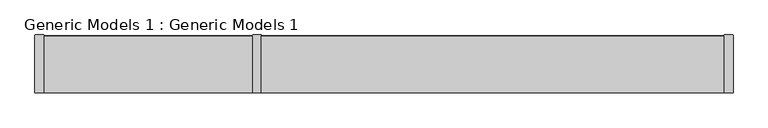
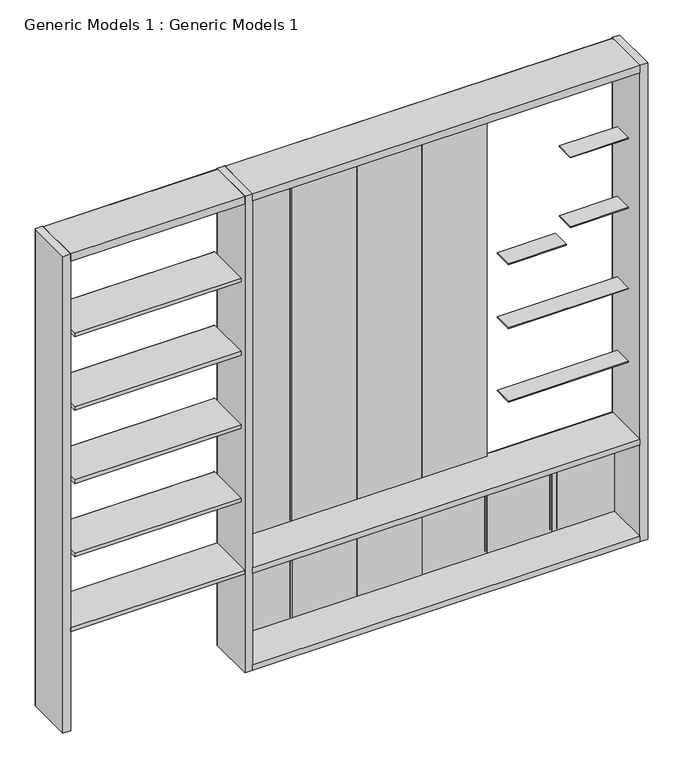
"""IFC4 building model written with IfcOpenShell, lengths in millimetres: proxy geometry, Generic Models 1 : Generic Models 1."""

import ifcopenshell
import ifcopenshell.guid

model = None  # the IFC model being written
_history = None  # IfcOwnerHistory: only IFC2X3 demands one
_inside = {}  # id of a spatial element -> (the spatial element, [elements in it])
_under = {}  # id of a project, library or spatial element -> (it, [spatial elements below it])
_declared = {}  # id of a project -> (the project, [libraries it declares])
_typed = {}  # id of a type object -> (the type object, [elements of that type])
_made_of = {}  # id of a material, layer set ... -> (it, [elements and type objects made of it])


def new_model(schema):
    """Start an empty IFC model of exactly this schema.

    Asked for "IFC4X3", IfcOpenShell would pick the latest addendum, in which some entities
    have other attributes; the version numbers below select the first issue.
    IFC2X3 requires an IfcOwnerHistory on every rooted entity: one is made here for all.
    """
    global model, _history
    if schema == "IFC4X3":
        model = ifcopenshell.file(schema_version=(4, 3, 0, 0))
    else:
        model = ifcopenshell.file(schema=schema)
    _inside.clear()
    _under.clear()
    _declared.clear()
    _typed.clear()
    _made_of.clear()
    _history = None
    if model.schema == "IFC2X3":
        org = make("IfcOrganization", Name="unknown")
        user = make(
            "IfcPersonAndOrganization",
            ThePerson=make("IfcPerson", FamilyName="unknown"),
            TheOrganization=org,
        )
        app = make(
            "IfcApplication",
            ApplicationDeveloper=org,
            Version="unknown",
            ApplicationFullName="unknown",
            ApplicationIdentifier="unknown",
        )
        _history = make(
            "IfcOwnerHistory",
            OwningUser=user,
            OwningApplication=app,
            ChangeAction="ADDED",
            CreationDate=0,
        )
    return model


def make(cls, **values):
    """One entity of the class cls with the attributes given. An attribute that is None is left unset."""
    return model.create_entity(
        cls, **{name: value for name, value in values.items() if value is not None}
    )


def rooted(cls, **values):
    """An entity with a GlobalId (a new one), such as an element, a storey or a relation."""
    return make(cls, GlobalId=ifcopenshell.guid.new(), OwnerHistory=_history, **values)


def si_unit(unit_type, name, prefix=None):
    """IfcSIUnit, for example si_unit("LENGTHUNIT", "METRE", prefix="MILLI")."""
    return make("IfcSIUnit", UnitType=unit_type, Prefix=prefix, Name=name)


def assignment(units):
    """IfcUnitAssignment: the units of a project."""
    return None if units is None else make("IfcUnitAssignment", Units=units)


def point(xyz):
    """IfcCartesianPoint."""
    return None if xyz is None else make("IfcCartesianPoint", Coordinates=xyz)


def direction(xyz):
    """IfcDirection."""
    return None if xyz is None else make("IfcDirection", DirectionRatios=xyz)


def frame(location, z_axis=None, x_axis=None):
    """IfcAxis2Placement3D, a coordinate frame: its origin and axes. An axis left out is left unset."""
    return make(
        "IfcAxis2Placement3D",
        Location=point(location),
        Axis=direction(z_axis),
        RefDirection=direction(x_axis),
    )


def frame_2d(location, x_axis=None):
    """IfcAxis2Placement2D, a coordinate frame in the plane: its origin and x axis."""
    return make(
        "IfcAxis2Placement2D", Location=point(location), RefDirection=direction(x_axis)
    )


def origin():
    """The frame at (0, 0, 0) with its axes left unset."""
    return frame((0.0, 0.0, 0.0))


def origin_with_axes():
    """The frame at (0, 0, 0) with the z axis (0, 0, 1) and the x axis (1, 0, 0) written out."""
    return frame((0.0, 0.0, 0.0), z_axis=(0.0, 0.0, 1.0), x_axis=(1.0, 0.0, 0.0))


def place(relative_to, where):
    """IfcLocalPlacement: puts the frame where relative to a parent placement (None: the world)."""
    return make(
        "IfcLocalPlacement", PlacementRelTo=relative_to, RelativePlacement=where
    )


def context(
    kind, dimensions, precision=None, world=None, true_north=None, identifier=None
):
    """IfcGeometricRepresentationContext, for example the 3D "Model" context."""
    return make(
        "IfcGeometricRepresentationContext",
        ContextIdentifier=identifier,
        ContextType=kind,
        CoordinateSpaceDimension=dimensions,
        Precision=precision,
        WorldCoordinateSystem=world,
        TrueNorth=true_north,
    )


def project(units=None, contexts=None):
    """IfcProject with its units and contexts."""
    return rooted(
        "IfcProject",
        Name="project",
        RepresentationContexts=contexts,
        UnitsInContext=assignment(units),
    )


def spatial(cls, under=None, at=None, **own):
    """A site, building, storey or space (cls), placed at a placement, below another one or the project."""
    s = rooted(cls, ObjectPlacement=at, **own)
    if under is not None:
        _under.setdefault(under.id(), (under, []))[1].append(s)
    return s


def polyline(points):
    """IfcPolyline through the points."""
    return make("IfcPolyline", Points=[point(p) for p in points])


def circle_curve(where, radius):
    """IfcCircle in the frame where."""
    return make("IfcCircle", Position=where, Radius=radius)


def trimmed(basis, trim1, trim2, sense, master):
    """IfcTrimmedCurve: the piece of a basis curve between two trims."""
    return make(
        "IfcTrimmedCurve",
        BasisCurve=basis,
        Trim1=trim1,
        Trim2=trim2,
        SenseAgreement=sense,
        MasterRepresentation=master,
    )


def segment(curve, same_sense, transition):
    """IfcCompositeCurveSegment."""
    return make(
        "IfcCompositeCurveSegment",
        Transition=transition,
        SameSense=same_sense,
        ParentCurve=curve,
    )


def composite_curve(segments, self_intersect=None):
    """IfcCompositeCurve: segments joined end to end."""
    return make("IfcCompositeCurve", Segments=segments, SelfIntersect=self_intersect)


def outline(outer, holes=None, kind="AREA"):
    """IfcArbitraryClosedProfileDef: a profile drawn as a closed curve; with holes, ...WithVoids."""
    if holes is None:
        return make("IfcArbitraryClosedProfileDef", ProfileType=kind, OuterCurve=outer)
    return make(
        "IfcArbitraryProfileDefWithVoids",
        ProfileType=kind,
        OuterCurve=outer,
        InnerCurves=holes,
    )


def extrude(swept, where, along, depth):
    """IfcExtrudedAreaSolid: the profile swept, set in the frame where, extruded along a direction by depth."""
    return make(
        "IfcExtrudedAreaSolid",
        SweptArea=swept,
        Position=where,
        ExtrudedDirection=direction(along),
        Depth=depth,
    )


def shape(context_of_items, identifier, shape_type, items):
    """IfcShapeRepresentation: the items that make up one representation, for example the "Body"."""
    return make(
        "IfcShapeRepresentation",
        ContextOfItems=context_of_items,
        RepresentationIdentifier=identifier,
        RepresentationType=shape_type,
        Items=items,
    )


def source(mapping_origin, context_of_items, identifier, shape_type, items):
    """IfcRepresentationMap: a shape defined once, which mapped items show again and again."""
    return make(
        "IfcRepresentationMap",
        MappingOrigin=mapping_origin,
        MappedRepresentation=shape(context_of_items, identifier, shape_type, items),
    )


def transform(
    local_origin,
    x_axis=None,
    y_axis=None,
    z_axis=None,
    scale=None,
    scale2=None,
    scale3=None,
    uniform=True,
):
    """IfcCartesianTransformationOperator3D, or its non-uniform kind. x_axis, y_axis, z_axis: its Axis1, 2, 3."""
    if uniform:
        return make(
            "IfcCartesianTransformationOperator3D",
            Axis1=direction(x_axis),
            Axis2=direction(y_axis),
            LocalOrigin=point(local_origin),
            Scale=scale,
            Axis3=direction(z_axis),
        )
    return make(
        "IfcCartesianTransformationOperator3DnonUniform",
        Axis1=direction(x_axis),
        Axis2=direction(y_axis),
        LocalOrigin=point(local_origin),
        Scale=scale,
        Axis3=direction(z_axis),
        Scale2=scale2,
        Scale3=scale3,
    )


def mapped(mapping_source, mapping_target):
    """IfcMappedItem: shows the shape of a source again, moved by a transform."""
    return make(
        "IfcMappedItem", MappingSource=mapping_source, MappingTarget=mapping_target
    )


def made_of(thing, what):
    """Note that an element or type object is made of a material, layer set ...; save() writes the relation."""
    if what is not None:
        _made_of.setdefault(what.id(), (what, []))[1].append(thing)
    return thing


def element(
    cls,
    number,
    at=None,
    inside=None,
    cuts=None,
    type_object=None,
    material=None,
    context=None,
    identifier="Body",
    shape_type=None,
    held_by="IfcProductDefinitionShape",
    body=None,
    shapes=None,
    **own,
):
    """One element of the class cls, such as IfcWall. Its Tag is "e" and its number.

    at: its placement. inside: the storey or other place that contains it. cuts: it is an
    opening in that element (IfcRelVoidsElement). A single representation is given by context,
    identifier, shape_type and body (its items); several are given by shapes. held_by: the class
    of the entity that holds the representations. save() writes the other relations.
    """
    e = rooted(cls, Tag="e%d" % number, ObjectPlacement=at, **own)
    if body is not None:
        shapes = [shape(context, identifier, shape_type, body)]
    if shapes is not None:
        e.Representation = make(held_by, Representations=shapes)
    if inside is not None:
        _inside.setdefault(inside.id(), (inside, []))[1].append(e)
    if cuts is not None:
        rooted(
            "IfcRelVoidsElement", RelatingBuildingElement=cuts, RelatedOpeningElement=e
        )
    if type_object is not None:
        _typed.setdefault(type_object.id(), (type_object, []))[1].append(e)
    return made_of(e, material)


def aggregate(whole, parts):
    """IfcRelAggregates: a whole, such as a stair, and the parts it consists of."""
    return rooted("IfcRelAggregates", RelatingObject=whole, RelatedObjects=parts)


def save(model, path):
    """Write the relations noted so far, then the file.

    IfcRelAggregates (storeys below a building ...), IfcRelContainedInSpatialStructure (elements
    in a storey), IfcRelDefinesByType, IfcRelAssociatesMaterial and IfcRelDeclares: one each for
    every whole, place, type object, material and project.
    """
    for whole, parts in _under.values():
        aggregate(whole, parts)
    for where, things in _inside.values():
        rooted(
            "IfcRelContainedInSpatialStructure",
            RelatedElements=things,
            RelatingStructure=where,
        )
    for kind, things in _typed.values():
        rooted("IfcRelDefinesByType", RelatedObjects=things, RelatingType=kind)
    for what, things in _made_of.values():
        rooted("IfcRelAssociatesMaterial", RelatedObjects=things, RelatingMaterial=what)
    for by, libraries in _declared.values():
        rooted("IfcRelDeclares", RelatingContext=by, RelatedDefinitions=libraries)
    model.write(path)


def generic_models_1_generic_models_1_61025e43(model_context):
    return source(origin(), model_context, "Body", "SweptSolid", [
        extrude(outline(composite_curve([segment(polyline([(-1056.8344055, -2473.7040827), (-1391.2531836, -2473.7040827), (-1391.2531836, -2455.7040827)]), True, "CONTINUOUS"), segment(trimmed(circle_curve(frame_2d((-1389.2531836, -2455.7040827)), 2.0), [point((-1391.2531836, -2455.7040827))], [point((-1389.2531836, -2453.7040827))], False, "CARTESIAN"), True, "CONTINUOUS"), segment(polyline([(-1389.2531836, -2453.7040827), (-1090.8732838, -2453.7040827), (-1090.8732838, -2456.1682395)]), True, "CONTINUOUS"), segment(trimmed(circle_curve(frame_2d((-1079.7436907, -2456.1682395)), 11.1295931), [point((-1090.8732838, -2456.1682395))], [point((-1079.7436907, -2467.2978327))], True, "CARTESIAN"), True, "CONTINUOUS"), segment(polyline([(-1079.7436907, -2467.2978327), (-1066.8107838, -2467.2978327)]), True, "CONTINUOUS"), segment(trimmed(circle_curve(frame_2d((-1066.8107838, -2463.0009577)), 4.296875), [point((-1066.8107838, -2467.2978327))], [point((-1066.8107838, -2458.7040827))], True, "CARTESIAN"), True, "CONTINUOUS"), segment(polyline([(-1066.8107838, -2458.7040827), (-1074.186309, -2458.7040827)]), True, "CONTINUOUS"), segment(trimmed(circle_curve(frame_2d((-1074.186309, -2455.0559861)), 3.6480965), [point((-1074.186309, -2458.7040827))], [point((-1077.8344055, -2455.0559861))], False, "CARTESIAN"), True, "CONTINUOUS"), segment(polyline([(-1077.8344055, -2455.0559861), (-1077.8344055, -2453.7040827), (-1058.8344055, -2453.7040827)]), True, "CONTINUOUS"), segment(trimmed(circle_curve(frame_2d((-1058.8344055, -2455.7040827)), 2.0), [point((-1058.8344055, -2453.7040827))], [point((-1056.8344055, -2455.7040827))], False, "CARTESIAN"), True, "CONTINUOUS"), segment(polyline([(-1056.8344055, -2455.7040827), (-1056.8344055, -2473.7040827)]), True, "CONTINUOUS")], self_intersect=False)), frame((0.0, 0.0, 30.0), z_axis=(0.0, 0.0, 1.0), x_axis=(1.0, 0.0, 0.0)), (0.0, 0.0, 1.0), 500.0),
        extrude(outline(composite_curve([segment(polyline([(-1726.8344055, -2473.7040827), (-2061.2531836, -2473.7040827), (-2061.2531836, -2455.7040827)]), True, "CONTINUOUS"), segment(trimmed(circle_curve(frame_2d((-2059.2531836, -2455.7040827)), 2.0), [point((-2061.2531836, -2455.7040827))], [point((-2059.2531836, -2453.7040827))], False, "CARTESIAN"), True, "CONTINUOUS"), segment(polyline([(-2059.2531836, -2453.7040827), (-1760.8732838, -2453.7040827), (-1760.8732838, -2456.1682395)]), True, "CONTINUOUS"), segment(trimmed(circle_curve(frame_2d((-1749.7436907, -2456.1682395)), 11.1295931), [point((-1760.8732838, -2456.1682395))], [point((-1749.7436907, -2467.2978327))], True, "CARTESIAN"), True, "CONTINUOUS"), segment(polyline([(-1749.7436907, -2467.2978327), (-1736.8107838, -2467.2978327)]), True, "CONTINUOUS"), segment(trimmed(circle_curve(frame_2d((-1736.8107838, -2463.0009577)), 4.296875), [point((-1736.8107838, -2467.2978327))], [point((-1736.8107838, -2458.7040827))], True, "CARTESIAN"), True, "CONTINUOUS"), segment(polyline([(-1736.8107838, -2458.7040827), (-1744.186309, -2458.7040827)]), True, "CONTINUOUS"), segment(trimmed(circle_curve(frame_2d((-1744.186309, -2455.0559861)), 3.6480965), [point((-1744.186309, -2458.7040827))], [point((-1747.8344055, -2455.0559861))], False, "CARTESIAN"), True, "CONTINUOUS"), segment(polyline([(-1747.8344055, -2455.0559861), (-1747.8344055, -2453.7040827), (-1728.8344055, -2453.7040827)]), True, "CONTINUOUS"), segment(trimmed(circle_curve(frame_2d((-1728.8344055, -2455.7040827)), 2.0), [point((-1728.8344055, -2453.7040827))], [point((-1726.8344055, -2455.7040827))], False, "CARTESIAN"), True, "CONTINUOUS"), segment(polyline([(-1726.8344055, -2455.7040827), (-1726.8344055, -2473.7040827)]), True, "CONTINUOUS")], self_intersect=False)), frame((0.0, 0.0, 30.0), z_axis=(0.0, 0.0, 1.0), x_axis=(1.0, 0.0, 0.0)), (0.0, 0.0, 1.0), 500.0),
        extrude(outline(composite_curve([segment(polyline([(-1056.0719618, -2473.7040827), (-1056.0719618, -2455.7040827)]), True, "CONTINUOUS"), segment(trimmed(circle_curve(frame_2d((-1054.0719618, -2455.7040827)), 2.0), [point((-1056.0719618, -2455.7040827))], [point((-1054.0719618, -2453.7040827))], False, "CARTESIAN"), True, "CONTINUOUS"), segment(polyline([(-1054.0719618, -2453.7040827), (-1035.0719618, -2453.7040827), (-1035.0719618, -2455.0559861)]), True, "CONTINUOUS"), segment(trimmed(circle_curve(frame_2d((-1038.7200583, -2455.0559861)), 3.6480965), [point((-1035.0719618, -2455.0559861))], [point((-1038.7200583, -2458.7040827))], False, "CARTESIAN"), True, "CONTINUOUS"), segment(polyline([(-1038.7200583, -2458.7040827), (-1046.0955835, -2458.7040827)]), True, "CONTINUOUS"), segment(trimmed(circle_curve(frame_2d((-1046.0955835, -2463.0009577)), 4.296875), [point((-1046.0955835, -2458.7040827))], [point((-1046.0955835, -2467.2978327))], True, "CARTESIAN"), True, "CONTINUOUS"), segment(polyline([(-1046.0955835, -2467.2978327), (-1033.1626766, -2467.2978327)]), True, "CONTINUOUS"), segment(trimmed(circle_curve(frame_2d((-1033.1626766, -2456.1682395)), 11.1295931), [point((-1033.1626766, -2467.2978327))], [point((-1022.0330835, -2456.1682395))], True, "CARTESIAN"), True, "CONTINUOUS"), segment(polyline([(-1022.0330835, -2456.1682395), (-1022.0330835, -2453.7040827), (-723.6531836, -2453.7040827)]), True, "CONTINUOUS"), segment(trimmed(circle_curve(frame_2d((-723.6531836, -2455.7040827)), 2.0), [point((-723.6531836, -2453.7040827))], [point((-721.6531836, -2455.7040827))], False, "CARTESIAN"), True, "CONTINUOUS"), segment(polyline([(-721.6531836, -2455.7040827), (-721.6531836, -2473.7040827), (-1056.0719618, -2473.7040827)]), True, "CONTINUOUS")], self_intersect=False)), frame((0.0, 0.0, 30.0), z_axis=(0.0, 0.0, 1.0), x_axis=(1.0, 0.0, 0.0)), (0.0, 0.0, 1.0), 500.0),
        extrude(outline(composite_curve([segment(polyline([(-1726.0719618, -2473.7040827), (-1726.0719618, -2455.7040827)]), True, "CONTINUOUS"), segment(trimmed(circle_curve(frame_2d((-1724.0719618, -2455.7040827)), 2.0), [point((-1726.0719618, -2455.7040827))], [point((-1724.0719618, -2453.7040827))], False, "CARTESIAN"), True, "CONTINUOUS"), segment(polyline([(-1724.0719618, -2453.7040827), (-1705.0719618, -2453.7040827), (-1705.0719618, -2455.0559861)]), True, "CONTINUOUS"), segment(trimmed(circle_curve(frame_2d((-1708.7200583, -2455.0559861)), 3.6480965), [point((-1705.0719618, -2455.0559861))], [point((-1708.7200583, -2458.7040827))], False, "CARTESIAN"), True, "CONTINUOUS"), segment(polyline([(-1708.7200583, -2458.7040827), (-1716.0955835, -2458.7040827)]), True, "CONTINUOUS"), segment(trimmed(circle_curve(frame_2d((-1716.0955835, -2463.0009577)), 4.296875), [point((-1716.0955835, -2458.7040827))], [point((-1716.0955835, -2467.2978327))], True, "CARTESIAN"), True, "CONTINUOUS"), segment(polyline([(-1716.0955835, -2467.2978327), (-1703.1626766, -2467.2978327)]), True, "CONTINUOUS"), segment(trimmed(circle_curve(frame_2d((-1703.1626766, -2456.1682395)), 11.1295931), [point((-1703.1626766, -2467.2978327))], [point((-1692.0330835, -2456.1682395))], True, "CARTESIAN"), True, "CONTINUOUS"), segment(polyline([(-1692.0330835, -2456.1682395), (-1692.0330835, -2453.7040827), (-1393.6531836, -2453.7040827)]), True, "CONTINUOUS"), segment(trimmed(circle_curve(frame_2d((-1393.6531836, -2455.7040827)), 2.0), [point((-1393.6531836, -2453.7040827))], [point((-1391.6531836, -2455.7040827))], False, "CARTESIAN"), True, "CONTINUOUS"), segment(polyline([(-1391.6531836, -2455.7040827), (-1391.6531836, -2473.7040827), (-1726.0719618, -2473.7040827)]), True, "CONTINUOUS")], self_intersect=False)), frame((0.0, 0.0, 30.0), z_axis=(0.0, 0.0, 1.0), x_axis=(1.0, 0.0, 0.0)), (0.0, 0.0, 1.0), 500.0),
        extrude(outline(composite_curve([segment(polyline([(-386.8344055, -2473.7040827), (-721.2531836, -2473.7040827), (-721.2531836, -2455.7040827)]), True, "CONTINUOUS"), segment(trimmed(circle_curve(frame_2d((-719.2531836, -2455.7040827)), 2.0), [point((-721.2531836, -2455.7040827))], [point((-719.2531836, -2453.7040827))], False, "CARTESIAN"), True, "CONTINUOUS"), segment(polyline([(-719.2531836, -2453.7040827), (-420.8732838, -2453.7040827), (-420.8732838, -2456.1682395)]), True, "CONTINUOUS"), segment(trimmed(circle_curve(frame_2d((-409.7436907, -2456.1682395)), 11.1295931), [point((-420.8732838, -2456.1682395))], [point((-409.7436907, -2467.2978327))], True, "CARTESIAN"), True, "CONTINUOUS"), segment(polyline([(-409.7436907, -2467.2978327), (-396.8107838, -2467.2978327)]), True, "CONTINUOUS"), segment(trimmed(circle_curve(frame_2d((-396.8107838, -2463.0009577)), 4.296875), [point((-396.8107838, -2467.2978327))], [point((-396.8107838, -2458.7040827))], True, "CARTESIAN"), True, "CONTINUOUS"), segment(polyline([(-396.8107838, -2458.7040827), (-404.186309, -2458.7040827)]), True, "CONTINUOUS"), segment(trimmed(circle_curve(frame_2d((-404.186309, -2455.0559861)), 3.6480965), [point((-404.186309, -2458.7040827))], [point((-407.8344055, -2455.0559861))], False, "CARTESIAN"), True, "CONTINUOUS"), segment(polyline([(-407.8344055, -2455.0559861), (-407.8344055, -2453.7040827), (-388.8344055, -2453.7040827)]), True, "CONTINUOUS"), segment(trimmed(circle_curve(frame_2d((-388.8344055, -2455.7040827)), 2.0), [point((-388.8344055, -2453.7040827))], [point((-386.8344055, -2455.7040827))], False, "CARTESIAN"), True, "CONTINUOUS"), segment(polyline([(-386.8344055, -2455.7040827), (-386.8344055, -2473.7040827)]), True, "CONTINUOUS")], self_intersect=False)), frame((0.0, 0.0, 30.0), z_axis=(0.0, 0.0, 1.0), x_axis=(1.0, 0.0, 0.0)), (0.0, 0.0, 1.0), 500.0),
        extrude(outline(composite_curve([segment(polyline([(-386.0719618, -2473.7040827), (-386.0719618, -2455.7040827)]), True, "CONTINUOUS"), segment(trimmed(circle_curve(frame_2d((-384.0719618, -2455.7040827)), 2.0), [point((-386.0719618, -2455.7040827))], [point((-384.0719618, -2453.7040827))], False, "CARTESIAN"), True, "CONTINUOUS"), segment(polyline([(-384.0719618, -2453.7040827), (-365.0719618, -2453.7040827), (-365.0719618, -2455.0559861)]), True, "CONTINUOUS"), segment(trimmed(circle_curve(frame_2d((-368.7200583, -2455.0559861)), 3.6480965), [point((-365.0719618, -2455.0559861))], [point((-368.7200583, -2458.7040827))], False, "CARTESIAN"), True, "CONTINUOUS"), segment(polyline([(-368.7200583, -2458.7040827), (-376.0955835, -2458.7040827)]), True, "CONTINUOUS"), segment(trimmed(circle_curve(frame_2d((-376.0955835, -2463.0009577)), 4.296875), [point((-376.0955835, -2458.7040827))], [point((-376.0955835, -2467.2978327))], True, "CARTESIAN"), True, "CONTINUOUS"), segment(polyline([(-376.0955835, -2467.2978327), (-363.1626766, -2467.2978327)]), True, "CONTINUOUS"), segment(trimmed(circle_curve(frame_2d((-363.1626766, -2456.1682395)), 11.1295931), [point((-363.1626766, -2467.2978327))], [point((-352.0330835, -2456.1682395))], True, "CARTESIAN"), True, "CONTINUOUS"), segment(polyline([(-352.0330835, -2456.1682395), (-352.0330835, -2453.7040827), (-63.6531836, -2453.7040827)]), True, "CONTINUOUS"), segment(trimmed(circle_curve(frame_2d((-63.6531836, -2455.7040827)), 2.0), [point((-63.6531836, -2453.7040827))], [point((-61.6531836, -2455.7040827))], False, "CARTESIAN"), True, "CONTINUOUS"), segment(polyline([(-61.6531836, -2455.7040827), (-61.6531836, -2473.7040827), (-386.0719618, -2473.7040827)]), True, "CONTINUOUS")], self_intersect=False)), frame((0.0, 0.0, 30.0), z_axis=(0.0, 0.0, 1.0), x_axis=(1.0, 0.0, 0.0)), (0.0, 0.0, 1.0), 500.0),
        extrude(outline(composite_curve([segment(polyline([(-1022.0330835, -2453.7040827), (-723.6531836, -2453.7040827)]), True, "CONTINUOUS"), segment(trimmed(circle_curve(frame_2d((-723.6531836, -2455.7040827)), 2.0), [point((-723.6531836, -2453.7040827))], [point((-721.6531836, -2455.7040827))], False, "CARTESIAN"), True, "CONTINUOUS"), segment(polyline([(-721.6531836, -2455.7040827), (-721.6531836, -2473.7040827), (-1056.0719618, -2473.7040827), (-1056.0719618, -2455.7040827)]), True, "CONTINUOUS"), segment(trimmed(circle_curve(frame_2d((-1054.0719618, -2455.7040827)), 2.0), [point((-1056.0719618, -2455.7040827))], [point((-1054.0719618, -2453.7040827))], False, "CARTESIAN"), True, "CONTINUOUS"), segment(polyline([(-1054.0719618, -2453.7040827), (-1035.0719618, -2453.7040827), (-1035.0719618, -2455.0559861)]), True, "CONTINUOUS"), segment(trimmed(circle_curve(frame_2d((-1038.7200583, -2455.0559861)), 3.6480965), [point((-1035.0719618, -2455.0559861))], [point((-1038.7200583, -2458.7040827))], False, "CARTESIAN"), True, "CONTINUOUS"), segment(polyline([(-1038.7200583, -2458.7040827), (-1046.0955835, -2458.7040827)]), True, "CONTINUOUS"), segment(trimmed(circle_curve(frame_2d((-1046.0955835, -2463.0009577)), 4.296875), [point((-1046.0955835, -2458.7040827))], [point((-1046.0955835, -2467.2978327))], True, "CARTESIAN"), True, "CONTINUOUS"), segment(polyline([(-1046.0955835, -2467.2978327), (-1033.1626766, -2467.2978327)]), True, "CONTINUOUS"), segment(trimmed(circle_curve(frame_2d((-1033.1626766, -2456.1682395)), 11.1295931), [point((-1033.1626766, -2467.2978327))], [point((-1022.0330835, -2456.1682395))], True, "CARTESIAN"), True, "CONTINUOUS"), segment(polyline([(-1022.0330835, -2456.1682395), (-1022.0330835, -2453.7040827)]), True, "CONTINUOUS")], self_intersect=False)), frame((0.0, 0.0, 560.0), z_axis=(0.0, 0.0, 1.0), x_axis=(1.0, 0.0, 0.0)), (0.0, 0.0, 1.0), 2000.0),
        extrude(outline(composite_curve([segment(polyline([(-1090.8732838, -2453.7040827), (-1090.8732838, -2456.1682395)]), True, "CONTINUOUS"), segment(trimmed(circle_curve(frame_2d((-1079.7436907, -2456.1682395)), 11.1295931), [point((-1090.8732838, -2456.1682395))], [point((-1079.7436907, -2467.2978327))], True, "CARTESIAN"), True, "CONTINUOUS"), segment(polyline([(-1079.7436907, -2467.2978327), (-1066.8107838, -2467.2978327)]), True, "CONTINUOUS"), segment(trimmed(circle_curve(frame_2d((-1066.8107838, -2463.0009577)), 4.296875), [point((-1066.8107838, -2467.2978327))], [point((-1066.8107838, -2458.7040827))], True, "CARTESIAN"), True, "CONTINUOUS"), segment(polyline([(-1066.8107838, -2458.7040827), (-1074.186309, -2458.7040827)]), True, "CONTINUOUS"), segment(trimmed(circle_curve(frame_2d((-1074.186309, -2455.0559861)), 3.6480965), [point((-1074.186309, -2458.7040827))], [point((-1077.8344055, -2455.0559861))], False, "CARTESIAN"), True, "CONTINUOUS"), segment(polyline([(-1077.8344055, -2455.0559861), (-1077.8344055, -2453.7040827), (-1058.8344055, -2453.7040827)]), True, "CONTINUOUS"), segment(trimmed(circle_curve(frame_2d((-1058.8344055, -2455.7040827)), 2.0), [point((-1058.8344055, -2453.7040827))], [point((-1056.8344055, -2455.7040827))], False, "CARTESIAN"), True, "CONTINUOUS"), segment(polyline([(-1056.8344055, -2455.7040827), (-1056.8344055, -2473.7040827), (-1391.2531836, -2473.7040827), (-1391.2531836, -2455.7040827)]), True, "CONTINUOUS"), segment(trimmed(circle_curve(frame_2d((-1389.2531836, -2455.7040827)), 2.0), [point((-1391.2531836, -2455.7040827))], [point((-1389.2531836, -2453.7040827))], False, "CARTESIAN"), True, "CONTINUOUS"), segment(polyline([(-1389.2531836, -2453.7040827), (-1090.8732838, -2453.7040827)]), True, "CONTINUOUS")], self_intersect=False)), frame((0.0, 0.0, 560.0), z_axis=(0.0, 0.0, 1.0), x_axis=(1.0, 0.0, 0.0)), (0.0, 0.0, 1.0), 2000.0),
        extrude(outline(composite_curve([segment(polyline([(-1692.0330835, -2453.7040827), (-1393.6531836, -2453.7040827)]), True, "CONTINUOUS"), segment(trimmed(circle_curve(frame_2d((-1393.6531836, -2455.7040827)), 2.0), [point((-1393.6531836, -2453.7040827))], [point((-1391.6531836, -2455.7040827))], False, "CARTESIAN"), True, "CONTINUOUS"), segment(polyline([(-1391.6531836, -2455.7040827), (-1391.6531836, -2473.7040827), (-1726.0719618, -2473.7040827), (-1726.0719618, -2455.7040827)]), True, "CONTINUOUS"), segment(trimmed(circle_curve(frame_2d((-1724.0719618, -2455.7040827)), 2.0), [point((-1726.0719618, -2455.7040827))], [point((-1724.0719618, -2453.7040827))], False, "CARTESIAN"), True, "CONTINUOUS"), segment(polyline([(-1724.0719618, -2453.7040827), (-1705.0719618, -2453.7040827), (-1705.0719618, -2455.0559861)]), True, "CONTINUOUS"), segment(trimmed(circle_curve(frame_2d((-1708.7200583, -2455.0559861)), 3.6480965), [point((-1705.0719618, -2455.0559861))], [point((-1708.7200583, -2458.7040827))], False, "CARTESIAN"), True, "CONTINUOUS"), segment(polyline([(-1708.7200583, -2458.7040827), (-1716.0955835, -2458.7040827)]), True, "CONTINUOUS"), segment(trimmed(circle_curve(frame_2d((-1716.0955835, -2463.0009577)), 4.296875), [point((-1716.0955835, -2458.7040827))], [point((-1716.0955835, -2467.2978327))], True, "CARTESIAN"), True, "CONTINUOUS"), segment(polyline([(-1716.0955835, -2467.2978327), (-1703.1626766, -2467.2978327)]), True, "CONTINUOUS"), segment(trimmed(circle_curve(frame_2d((-1703.1626766, -2456.1682395)), 11.1295931), [point((-1703.1626766, -2467.2978327))], [point((-1692.0330835, -2456.1682395))], True, "CARTESIAN"), True, "CONTINUOUS"), segment(polyline([(-1692.0330835, -2456.1682395), (-1692.0330835, -2453.7040827)]), True, "CONTINUOUS")], self_intersect=False)), frame((0.0, 0.0, 560.0), z_axis=(0.0, 0.0, 1.0), x_axis=(1.0, 0.0, 0.0)), (0.0, 0.0, 1.0), 2000.0),
        extrude(outline(composite_curve([segment(polyline([(-1760.8732838, -2453.7040827), (-1760.8732838, -2456.1682395)]), True, "CONTINUOUS"), segment(trimmed(circle_curve(frame_2d((-1749.7436907, -2456.1682395)), 11.1295931), [point((-1760.8732838, -2456.1682395))], [point((-1749.7436907, -2467.2978327))], True, "CARTESIAN"), True, "CONTINUOUS"), segment(polyline([(-1749.7436907, -2467.2978327), (-1736.8107838, -2467.2978327)]), True, "CONTINUOUS"), segment(trimmed(circle_curve(frame_2d((-1736.8107838, -2463.0009577)), 4.296875), [point((-1736.8107838, -2467.2978327))], [point((-1736.8107838, -2458.7040827))], True, "CARTESIAN"), True, "CONTINUOUS"), segment(polyline([(-1736.8107838, -2458.7040827), (-1744.186309, -2458.7040827)]), True, "CONTINUOUS"), segment(trimmed(circle_curve(frame_2d((-1744.186309, -2455.0559861)), 3.6480965), [point((-1744.186309, -2458.7040827))], [point((-1747.8344055, -2455.0559861))], False, "CARTESIAN"), True, "CONTINUOUS"), segment(polyline([(-1747.8344055, -2455.0559861), (-1747.8344055, -2453.7040827), (-1728.8344055, -2453.7040827)]), True, "CONTINUOUS"), segment(trimmed(circle_curve(frame_2d((-1728.8344055, -2455.7040827)), 2.0), [point((-1728.8344055, -2453.7040827))], [point((-1726.8344055, -2455.7040827))], False, "CARTESIAN"), True, "CONTINUOUS"), segment(polyline([(-1726.8344055, -2455.7040827), (-1726.8344055, -2473.7040827), (-2061.2531836, -2473.7040827), (-2061.2531836, -2455.7040827)]), True, "CONTINUOUS"), segment(trimmed(circle_curve(frame_2d((-2059.2531836, -2455.7040827)), 2.0), [point((-2061.2531836, -2455.7040827))], [point((-2059.2531836, -2453.7040827))], False, "CARTESIAN"), True, "CONTINUOUS"), segment(polyline([(-2059.2531836, -2453.7040827), (-1760.8732838, -2453.7040827)]), True, "CONTINUOUS")], self_intersect=False)), frame((0.0, 0.0, 560.0), z_axis=(0.0, 0.0, 1.0), x_axis=(1.0, 0.0, 0.0)), (0.0, 0.0, 1.0), 2000.0),
        extrude(outline(polyline([(-401.4531836, -2532.321744), (-401.4531836, -2632.321744), (-701.4531836, -2632.321744), (-701.4531836, -2532.321744), (-401.4531836, -2532.321744)])), frame((0.0, 0.0, 1695.0), z_axis=(0.0, 0.0, 1.0), x_axis=(1.0, 0.0, 0.0)), (0.0, 0.0, 1.0), 5.0),
        extrude(outline(polyline([(-81.4531836, -2532.321744), (-81.4531836, -2632.321744), (-701.4531836, -2632.321744), (-701.4531836, -2532.321744), (-81.4531836, -2532.321744)])), frame((0.0, 0.0, 945.0), z_axis=(0.0, 0.0, 1.0), x_axis=(1.0, 0.0, 0.0)), (0.0, 0.0, 1.0), 5.0),
        extrude(outline(polyline([(-81.4531836, -2532.321744), (-81.4531836, -2632.321744), (-381.4531836, -2632.321744), (-381.4531836, -2532.321744), (-81.4531836, -2532.321744)])), frame((0.0, 0.0, 2165.0), z_axis=(0.0, 0.0, 1.0), x_axis=(1.0, 0.0, 0.0)), (0.0, 0.0, 1.0), 5.0),
        extrude(outline(polyline([(-81.4531836, -2532.321744), (-81.4531836, -2632.321744), (-381.4531836, -2632.321744), (-381.4531836, -2532.321744), (-81.4531836, -2532.321744)])), frame((0.0, 0.0, 1785.0), z_axis=(0.0, 0.0, 1.0), x_axis=(1.0, 0.0, 0.0)), (0.0, 0.0, 1.0), 5.0),
        extrude(outline(polyline([(-81.4531836, -2532.321744), (-81.4531836, -2632.321744), (-701.4531836, -2632.321744), (-701.4531836, -2532.321744), (-81.4531836, -2532.321744)])), frame((0.0, 0.0, 1345.0), z_axis=(0.0, 0.0, 1.0), x_axis=(1.0, 0.0, 0.0)), (0.0, 0.0, 1.0), 5.0),
        extrude(outline(composite_curve([segment(trimmed(circle_curve(frame_2d((-2456.6595241, 27.0)), 3.0), [point((-2456.6595241, 30.0))], [point((-2453.6595241, 27.0))], False, "CARTESIAN"), True, "CONTINUOUS"), segment(polyline([(-2453.6595241, 27.0), (-2453.6595241, 3.0)]), True, "CONTINUOUS"), segment(trimmed(circle_curve(frame_2d((-2456.6595241, 3.0)), 3.0), [point((-2453.6595241, 3.0))], [point((-2456.6595241, 0.0))], False, "CARTESIAN"), True, "CONTINUOUS"), segment(polyline([(-2456.6595241, 0.0), (-2700.6595241, 0.0), (-2700.6595241, 30.0), (-2456.6595241, 30.0)]), True, "CONTINUOUS")], self_intersect=False)), frame((-2061.4531836, 0.0, 0.0), z_axis=(1.0, 0.0, 0.0), x_axis=(0.0, 1.0, 0.0)), (0.0, 0.0, 1.0), 2000.0),
        extrude(outline(composite_curve([segment(trimmed(circle_curve(frame_2d((-2456.6595241, 557.0)), 3.0), [point((-2456.6595241, 560.0))], [point((-2453.6595241, 557.0))], False, "CARTESIAN"), True, "CONTINUOUS"), segment(polyline([(-2453.6595241, 557.0), (-2453.6595241, 533.0)]), True, "CONTINUOUS"), segment(trimmed(circle_curve(frame_2d((-2456.6595241, 533.0)), 3.0), [point((-2453.6595241, 533.0))], [point((-2456.6595241, 530.0))], False, "CARTESIAN"), True, "CONTINUOUS"), segment(polyline([(-2456.6595241, 530.0), (-2700.6595241, 530.0), (-2700.6595241, 560.0), (-2456.6595241, 560.0)]), True, "CONTINUOUS")], self_intersect=False)), frame((-2061.4531836, 0.0, 0.0), z_axis=(1.0, 0.0, 0.0), x_axis=(0.0, 1.0, 0.0)), (0.0, 0.0, 1.0), 2000.0),
        extrude(outline(polyline([(-2101.4531836, -2532.321744), (-2101.4531836, -2632.321744), (-3001.4531836, -2632.321744), (-3001.4531836, -2532.321744), (-2101.4531836, -2532.321744)])), frame((0.0, 0.0, 545.0), z_axis=(0.0, 0.0, 1.0), x_axis=(1.0, 0.0, 0.0)), (0.0, 0.0, 1.0), 5.0),
        extrude(outline(composite_curve([segment(trimmed(circle_curve(frame_2d((-2456.6595241, 558.0)), 2.0), [point((-2456.6595241, 560.0))], [point((-2454.6595241, 558.0))], False, "CARTESIAN"), True, "CONTINUOUS"), segment(polyline([(-2454.6595241, 558.0), (-2454.6595241, 542.0)]), True, "CONTINUOUS"), segment(trimmed(circle_curve(frame_2d((-2456.6595241, 542.0)), 2.0), [point((-2454.6595241, 542.0))], [point((-2456.6595241, 540.0))], False, "CARTESIAN"), True, "CONTINUOUS"), segment(polyline([(-2456.6595241, 540.0), (-2532.321744, 540.0), (-2532.321744, 550.0), (-2632.321744, 550.0), (-2632.321744, 540.0), (-2700.6595241, 540.0), (-2700.6595241, 560.0), (-2456.6595241, 560.0)]), True, "CONTINUOUS")], self_intersect=False)), frame((-3001.4531836, 0.0, 0.0), z_axis=(1.0, 0.0, 0.0), x_axis=(0.0, 1.0, 0.0)), (0.0, 0.0, 1.0), 900.0),
        extrude(outline(polyline([(-2121.4531836, -2532.321744), (-2121.4531836, -2632.321744), (-2981.4531836, -2632.321744), (-2981.4531836, -2532.321744), (-2121.4531836, -2532.321744)])), frame((0.0, 0.0, 945.0), z_axis=(0.0, 0.0, 1.0), x_axis=(1.0, 0.0, 0.0)), (0.0, 0.0, 1.0), 5.0),
        extrude(outline(composite_curve([segment(trimmed(circle_curve(frame_2d((-2463.7614281, 958.0)), 2.0), [point((-2463.7614281, 960.0))], [point((-2461.7614281, 958.0))], False, "CARTESIAN"), True, "CONTINUOUS"), segment(polyline([(-2461.7614281, 958.0), (-2461.7614281, 942.0)]), True, "CONTINUOUS"), segment(trimmed(circle_curve(frame_2d((-2463.7614281, 942.0)), 2.0), [point((-2461.7614281, 942.0))], [point((-2463.7614281, 940.0))], False, "CARTESIAN"), True, "CONTINUOUS"), segment(polyline([(-2463.7614281, 940.0), (-2532.321744, 940.0), (-2532.321744, 950.0), (-2632.321744, 950.0), (-2632.321744, 940.0), (-2700.6595241, 940.0), (-2700.6595241, 960.0), (-2463.7614281, 960.0)]), True, "CONTINUOUS")], self_intersect=False)), frame((-2981.4531836, 0.0, 0.0), z_axis=(1.0, 0.0, 0.0), x_axis=(0.0, 1.0, 0.0)), (0.0, 0.0, 1.0), 860.0),
        extrude(outline(polyline([(-2121.4531836, -2532.321744), (-2121.4531836, -2632.321744), (-2981.4531836, -2632.321744), (-2981.4531836, -2532.321744), (-2121.4531836, -2532.321744)])), frame((0.0, 0.0, 1345.0), z_axis=(0.0, 0.0, 1.0), x_axis=(1.0, 0.0, 0.0)), (0.0, 0.0, 1.0), 5.0),
        extrude(outline(composite_curve([segment(trimmed(circle_curve(frame_2d((-2463.7614281, 1358.0)), 2.0), [point((-2463.7614281, 1360.0))], [point((-2461.7614281, 1358.0))], False, "CARTESIAN"), True, "CONTINUOUS"), segment(polyline([(-2461.7614281, 1358.0), (-2461.7614281, 1342.0)]), True, "CONTINUOUS"), segment(trimmed(circle_curve(frame_2d((-2463.7614281, 1342.0)), 2.0), [point((-2461.7614281, 1342.0))], [point((-2463.7614281, 1340.0))], False, "CARTESIAN"), True, "CONTINUOUS"), segment(polyline([(-2463.7614281, 1340.0), (-2532.321744, 1340.0), (-2532.321744, 1350.0), (-2632.321744, 1350.0), (-2632.321744, 1340.0), (-2700.6595241, 1340.0), (-2700.6595241, 1360.0), (-2463.7614281, 1360.0)]), True, "CONTINUOUS")], self_intersect=False)), frame((-2981.4531836, 0.0, 0.0), z_axis=(1.0, 0.0, 0.0), x_axis=(0.0, 1.0, 0.0)), (0.0, 0.0, 1.0), 860.0),
        extrude(outline(polyline([(-2121.4531836, -2532.321744), (-2121.4531836, -2632.321744), (-2981.4531836, -2632.321744), (-2981.4531836, -2532.321744), (-2121.4531836, -2532.321744)])), frame((0.0, 0.0, 1745.0), z_axis=(0.0, 0.0, 1.0), x_axis=(1.0, 0.0, 0.0)), (0.0, 0.0, 1.0), 5.0),
        extrude(outline(composite_curve([segment(trimmed(circle_curve(frame_2d((-2463.7614281, 1758.0)), 2.0), [point((-2463.7614281, 1760.0))], [point((-2461.7614281, 1758.0))], False, "CARTESIAN"), True, "CONTINUOUS"), segment(polyline([(-2461.7614281, 1758.0), (-2461.7614281, 1742.0)]), True, "CONTINUOUS"), segment(trimmed(circle_curve(frame_2d((-2463.7614281, 1742.0)), 2.0), [point((-2461.7614281, 1742.0))], [point((-2463.7614281, 1740.0))], False, "CARTESIAN"), True, "CONTINUOUS"), segment(polyline([(-2463.7614281, 1740.0), (-2532.321744, 1740.0), (-2532.321744, 1750.0), (-2632.321744, 1750.0), (-2632.321744, 1740.0), (-2700.6595241, 1740.0), (-2700.6595241, 1760.0), (-2463.7614281, 1760.0)]), True, "CONTINUOUS")], self_intersect=False)), frame((-2981.4531836, 0.0, 0.0), z_axis=(1.0, 0.0, 0.0), x_axis=(0.0, 1.0, 0.0)), (0.0, 0.0, 1.0), 860.0),
        extrude(outline(polyline([(-2121.4531836, -2532.321744), (-2121.4531836, -2632.321744), (-2981.4531836, -2632.321744), (-2981.4531836, -2532.321744), (-2121.4531836, -2532.321744)])), frame((0.0, 0.0, 2145.0), z_axis=(0.0, 0.0, 1.0), x_axis=(1.0, 0.0, 0.0)), (0.0, 0.0, 1.0), 5.0),
        extrude(outline(composite_curve([segment(trimmed(circle_curve(frame_2d((-2463.7614281, 2158.0)), 2.0), [point((-2463.7614281, 2160.0))], [point((-2461.7614281, 2158.0))], False, "CARTESIAN"), True, "CONTINUOUS"), segment(polyline([(-2461.7614281, 2158.0), (-2461.7614281, 2142.0)]), True, "CONTINUOUS"), segment(trimmed(circle_curve(frame_2d((-2463.7614281, 2142.0)), 2.0), [point((-2461.7614281, 2142.0))], [point((-2463.7614281, 2140.0))], False, "CARTESIAN"), True, "CONTINUOUS"), segment(polyline([(-2463.7614281, 2140.0), (-2532.321744, 2140.0), (-2532.321744, 2150.0), (-2632.321744, 2150.0), (-2632.321744, 2140.0), (-2700.6595241, 2140.0), (-2700.6595241, 2160.0), (-2463.7614281, 2160.0)]), True, "CONTINUOUS")], self_intersect=False)), frame((-2981.4531836, 0.0, 0.0), z_axis=(1.0, 0.0, 0.0), x_axis=(0.0, 1.0, 0.0)), (0.0, 0.0, 1.0), 860.0),
        extrude(outline(composite_curve([segment(trimmed(circle_curve(frame_2d((-2456.6595241, 2597.0)), 3.0), [point((-2456.6595241, 2600.0))], [point((-2453.6595241, 2597.0))], False, "CARTESIAN"), True, "CONTINUOUS"), segment(polyline([(-2453.6595241, 2597.0), (-2453.6595241, 2563.0)]), True, "CONTINUOUS"), segment(trimmed(circle_curve(frame_2d((-2456.6595241, 2563.0)), 3.0), [point((-2453.6595241, 2563.0))], [point((-2456.6595241, 2560.0))], False, "CARTESIAN"), True, "CONTINUOUS"), segment(polyline([(-2456.6595241, 2560.0), (-2700.6595241, 2560.0), (-2700.6595241, 2600.0), (-2456.6595241, 2600.0)]), True, "CONTINUOUS")], self_intersect=False)), frame((-3001.4531836, 0.0, 0.0), z_axis=(1.0, 0.0, 0.0), x_axis=(0.0, 1.0, 0.0)), (0.0, 0.0, 1.0), 900.0),
        extrude(outline(composite_curve([segment(trimmed(circle_curve(frame_2d((-2456.6595241, 2597.0)), 3.0), [point((-2456.6595241, 2600.0))], [point((-2453.6595241, 2597.0))], False, "CARTESIAN"), True, "CONTINUOUS"), segment(polyline([(-2453.6595241, 2597.0), (-2453.6595241, 2563.0)]), True, "CONTINUOUS"), segment(trimmed(circle_curve(frame_2d((-2456.6595241, 2563.0)), 3.0), [point((-2453.6595241, 2563.0))], [point((-2456.6595241, 2560.0))], False, "CARTESIAN"), True, "CONTINUOUS"), segment(polyline([(-2456.6595241, 2560.0), (-2700.6595241, 2560.0), (-2700.6595241, 2600.0), (-2456.6595241, 2600.0)]), True, "CONTINUOUS")], self_intersect=False)), frame((-2061.4531836, 0.0, 0.0), z_axis=(1.0, 0.0, 0.0), x_axis=(0.0, 1.0, 0.0)), (0.0, 0.0, 1.0), 2000.0),
        extrude(outline(composite_curve([segment(polyline([(-3038.4531836, -2450.6595241), (-3004.4531836, -2450.6595241)]), True, "CONTINUOUS"), segment(trimmed(circle_curve(frame_2d((-3004.4531836, -2453.6595241)), 3.0), [point((-3004.4531836, -2450.6595241))], [point((-3001.4531836, -2453.6595241))], False, "CARTESIAN"), True, "CONTINUOUS"), segment(polyline([(-3001.4531836, -2453.6595241), (-3001.4531836, -2700.6595241), (-3041.4531836, -2700.6595241), (-3041.4531836, -2453.6595241)]), True, "CONTINUOUS"), segment(trimmed(circle_curve(frame_2d((-3038.4531836, -2453.6595241)), 3.0), [point((-3041.4531836, -2453.6595241))], [point((-3038.4531836, -2450.6595241))], False, "CARTESIAN"), True, "CONTINUOUS")], self_intersect=False)), origin_with_axes(), (0.0, 0.0, 1.0), 2600.0),
        extrude(outline(composite_curve([segment(trimmed(circle_curve(frame_2d((-2064.4531836, -2453.6595241)), 3.0), [point((-2064.4531836, -2450.6595241))], [point((-2061.4531836, -2453.6595241))], False, "CARTESIAN"), True, "CONTINUOUS"), segment(polyline([(-2061.4531836, -2453.6595241), (-2061.4531836, -2700.6595241), (-2101.4531836, -2700.6595241), (-2101.4531836, -2453.6595241)]), True, "CONTINUOUS"), segment(trimmed(circle_curve(frame_2d((-2098.4531836, -2453.6595241)), 3.0), [point((-2101.4531836, -2453.6595241))], [point((-2098.4531836, -2450.6595241))], False, "CARTESIAN"), True, "CONTINUOUS"), segment(polyline([(-2098.4531836, -2450.6595241), (-2064.4531836, -2450.6595241)]), True, "CONTINUOUS")], self_intersect=False)), origin_with_axes(), (0.0, 0.0, 1.0), 2600.0),
        extrude(outline(composite_curve([segment(trimmed(circle_curve(frame_2d((-24.4531836, -2453.6595241)), 3.0), [point((-24.4531836, -2450.6595241))], [point((-21.4531836, -2453.6595241))], False, "CARTESIAN"), True, "CONTINUOUS"), segment(polyline([(-21.4531836, -2453.6595241), (-21.4531836, -2700.6595241), (-61.4531836, -2700.6595241), (-61.4531836, -2453.6595241)]), True, "CONTINUOUS"), segment(trimmed(circle_curve(frame_2d((-58.4531836, -2453.6595241)), 3.0), [point((-61.4531836, -2453.6595241))], [point((-58.4531836, -2450.6595241))], False, "CARTESIAN"), True, "CONTINUOUS"), segment(polyline([(-58.4531836, -2450.6595241), (-24.4531836, -2450.6595241)]), True, "CONTINUOUS")], self_intersect=False)), origin_with_axes(), (0.0, 0.0, 1.0), 2600.0),
    ])


if __name__ == "__main__":
    model = new_model("IFC4")
    model_context = context("Model", 3, world=origin())
    ifc_project = project(units=[si_unit("LENGTHUNIT", "METRE", prefix="MILLI")], contexts=[model_context])
    site = spatial("IfcSite", under=ifc_project)
    building = spatial("IfcBuilding", under=site)
    placement = place(None, origin())
    generic_models_1_generic_models_1_shape = generic_models_1_generic_models_1_61025e43(model_context)
    element("IfcBuildingElementProxy", 1, Name="Generic Models 1 : Generic Models 1", ObjectType="Generic Models 1 : Generic Models 1", at=placement, inside=building, context=model_context, shape_type="MappedRepresentation", body=[
        mapped(generic_models_1_generic_models_1_shape, transform((0.0, 0.0, 0.0), x_axis=(1.0, 0.0, 0.0), y_axis=(0.0, 1.0, 0.0), z_axis=(0.0, 0.0, 1.0))),
    ])
    save(model, "model.ifc")
